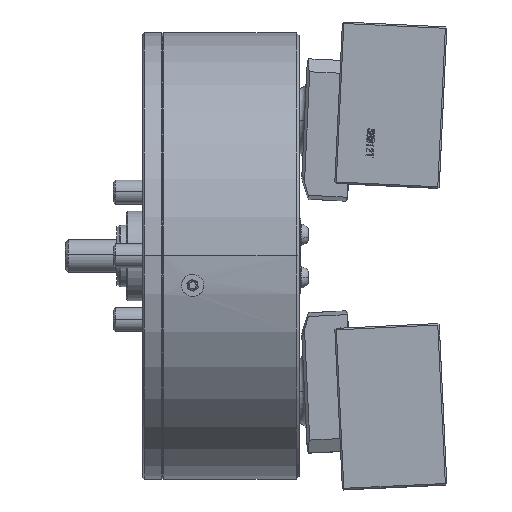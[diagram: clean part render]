
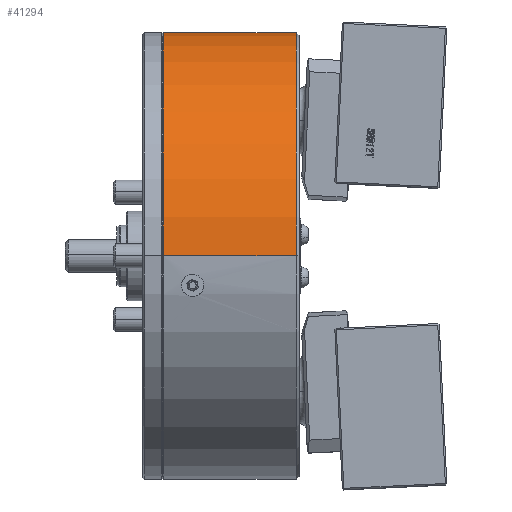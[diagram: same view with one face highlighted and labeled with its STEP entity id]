
A CAD part, top view. The second image highlights one B-rep face of the part: STEP entity #41294.
In plain terms, the highlighted cylindrical face has radius 150 mm (diameter 300 mm), a partial arc.
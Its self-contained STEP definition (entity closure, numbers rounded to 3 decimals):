
#2330 = CARTESIAN_POINT ( 'NONE',  ( -91.2, 0., 0. ) ) ;
#2759 = EDGE_CURVE ( 'NONE', #20059, #30911, #40367, .T. ) ;
#3462 = ORIENTED_EDGE ( 'NONE', *, *, #22824, .F. ) ;
#6157 = DIRECTION ( 'NONE',  ( 0., 0., -1. ) ) ;
#7970 = CARTESIAN_POINT ( 'NONE',  ( -2., 0., 0. ) ) ;
#8365 = CARTESIAN_POINT ( 'NONE',  ( -91.2, 0., -150. ) ) ;
#10345 = CYLINDRICAL_SURFACE ( 'NONE', #22524, 150. ) ;
#10355 = VERTEX_POINT ( 'NONE', #29367 ) ;
#10528 = AXIS2_PLACEMENT_3D ( 'NONE', #2330, #28842, #6157 ) ;
#10568 = VERTEX_POINT ( 'NONE', #17688 ) ;
#11580 = FACE_OUTER_BOUND ( 'NONE', #41109, .T. ) ;
#11840 = DIRECTION ( 'NONE',  ( 0., 0., -1. ) ) ;
#13496 = CIRCLE ( 'NONE', #10528, 150. ) ;
#13562 = ORIENTED_EDGE ( 'NONE', *, *, #42517, .T. ) ;
#17688 = CARTESIAN_POINT ( 'NONE',  ( -91.2, 0., 150. ) ) ;
#18592 = CARTESIAN_POINT ( 'NONE',  ( -2., 0., -150. ) ) ;
#19115 = AXIS2_PLACEMENT_3D ( 'NONE', #7970, #34446, #11840 ) ;
#19197 = CIRCLE ( 'NONE', #19115, 150. ) ;
#20059 = VERTEX_POINT ( 'NONE', #8365 ) ;
#21811 = CARTESIAN_POINT ( 'NONE',  ( 9.899, 0., 150. ) ) ;
#22524 = AXIS2_PLACEMENT_3D ( 'NONE', #28592, #47260, #24863 ) ;
#22575 = LINE ( 'NONE', #21811, #33715 ) ;
#22824 = EDGE_CURVE ( 'NONE', #30911, #10355, #19197, .T. ) ;
#24863 = DIRECTION ( 'NONE',  ( 0., 0., -1. ) ) ;
#27496 = ORIENTED_EDGE ( 'NONE', *, *, #35852, .T. ) ;
#28592 = CARTESIAN_POINT ( 'NONE',  ( 9.899, 0., 0. ) ) ;
#28842 = DIRECTION ( 'NONE',  ( 1., 0., 0. ) ) ;
#29367 = CARTESIAN_POINT ( 'NONE',  ( -2., 0., 150. ) ) ;
#30429 = VECTOR ( 'NONE', #32145, 1000. ) ;
#30911 = VERTEX_POINT ( 'NONE', #18592 ) ;
#32145 = DIRECTION ( 'NONE',  ( 1., 0., 0. ) ) ;
#32307 = CARTESIAN_POINT ( 'NONE',  ( 9.899, 0., -150. ) ) ;
#33715 = VECTOR ( 'NONE', #47971, 1000. ) ;
#34446 = DIRECTION ( 'NONE',  ( 1., 0., 0. ) ) ;
#35852 = EDGE_CURVE ( 'NONE', #20059, #10568, #13496, .T. ) ;
#36697 = ORIENTED_EDGE ( 'NONE', *, *, #2759, .F. ) ;
#40367 = LINE ( 'NONE', #32307, #30429 ) ;
#41109 = EDGE_LOOP ( 'NONE', ( #27496, #13562, #3462, #36697 ) ) ;
#41294 = ADVANCED_FACE ( 'NONE', ( #11580 ), #10345, .T. ) ;
#42517 = EDGE_CURVE ( 'NONE', #10568, #10355, #22575, .T. ) ;
#47260 = DIRECTION ( 'NONE',  ( 1., 0., 0. ) ) ;
#47971 = DIRECTION ( 'NONE',  ( 1., 0., 0. ) ) ;
